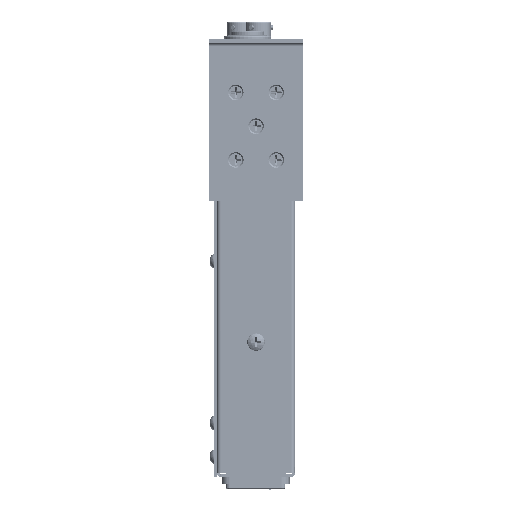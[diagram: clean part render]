
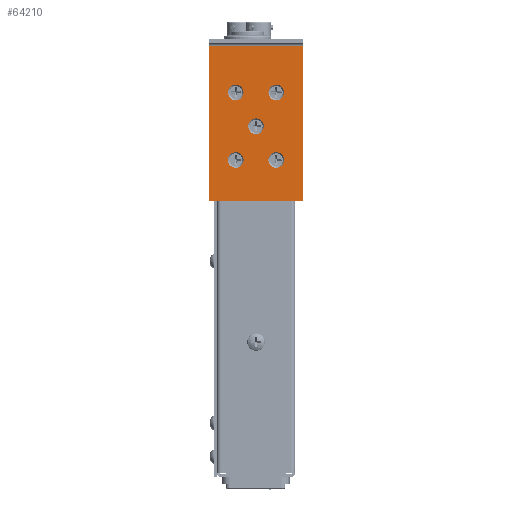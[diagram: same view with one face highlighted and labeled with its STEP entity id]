
A CAD part, left-side view. The second image highlights one B-rep face of the part: STEP entity #64210.
In plain terms, the highlighted planar face has unit normal (-1, 0, 0) as drawn and (0, 0, 1) by its records, which use the part's own axes.
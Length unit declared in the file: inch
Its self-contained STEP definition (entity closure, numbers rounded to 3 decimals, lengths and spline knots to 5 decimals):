
#2550 = CARTESIAN_POINT ( 'NONE',  ( -0.6515, 0.375, 0.059 ) ) ;
#4441 = CARTESIAN_POINT ( 'NONE',  ( -0.507, 0.375, 0.059 ) ) ;
#4532 = AXIS2_PLACEMENT_3D ( 'NONE', #133093, #146354, #32831 ) ;
#6787 = DIRECTION ( 'NONE',  ( 0., 0., 1. ) ) ;
#7026 = FACE_BOUND ( 'NONE', #95758, .T. ) ;
#7069 = VECTOR ( 'NONE', #89198, 39.37008 ) ;
#7187 = CARTESIAN_POINT ( 'NONE',  ( 0.5985, -0.375, 0.059 ) ) ;
#7247 = EDGE_LOOP ( 'NONE', ( #37175, #157412 ) ) ;
#8480 = CARTESIAN_POINT ( 'NONE',  ( -0.507, 0.375, 0.059 ) ) ;
#11831 = DIRECTION ( 'NONE',  ( 0., 0., 1. ) ) ;
#12983 = CARTESIAN_POINT ( 'NONE',  ( -1.5, 0.875, 0.059 ) ) ;
#13545 = VERTEX_POINT ( 'NONE', #53156 ) ;
#15139 = ORIENTED_EDGE ( 'NONE', *, *, #130852, .F. ) ;
#18073 = VERTEX_POINT ( 'NONE', #73938 ) ;
#21677 = DIRECTION ( 'NONE',  ( 1., 0., 0. ) ) ;
#21747 = DIRECTION ( 'NONE',  ( 0., 0., 1. ) ) ;
#25715 = VECTOR ( 'NONE', #73970, 39.37008 ) ;
#27443 = VERTEX_POINT ( 'NONE', #2550 ) ;
#28784 = VERTEX_POINT ( 'NONE', #117300 ) ;
#29468 = FACE_BOUND ( 'NONE', #92837, .T. ) ;
#29490 = EDGE_CURVE ( 'NONE', #73437, #97240, #138697, .T. ) ;
#31721 = DIRECTION ( 'NONE',  ( 1., 0., 0. ) ) ;
#32006 = DIRECTION ( 'NONE',  ( 0., 0., 1. ) ) ;
#32454 = EDGE_LOOP ( 'NONE', ( #95813, #15139 ) ) ;
#32484 = DIRECTION ( 'NONE',  ( 1., 0., 0. ) ) ;
#32831 = DIRECTION ( 'NONE',  ( 1., 0., 0. ) ) ;
#34698 = EDGE_CURVE ( 'NONE', #117661, #28784, #147425, .T. ) ;
#34916 = ORIENTED_EDGE ( 'NONE', *, *, #96566, .F. ) ;
#36516 = EDGE_CURVE ( 'NONE', #27443, #136022, #153207, .T. ) ;
#37175 = ORIENTED_EDGE ( 'NONE', *, *, #68536, .F. ) ;
#39102 = EDGE_CURVE ( 'NONE', #125800, #105210, #161020, .T. ) ;
#39898 = AXIS2_PLACEMENT_3D ( 'NONE', #107880, #6787, #32484 ) ;
#40015 = CIRCLE ( 'NONE', #39898, 0.1445 ) ;
#42599 = CIRCLE ( 'NONE', #135191, 0.1445 ) ;
#43481 = DIRECTION ( 'NONE',  ( 1., 0., 0. ) ) ;
#44001 = ORIENTED_EDGE ( 'NONE', *, *, #112175, .F. ) ;
#44272 = LINE ( 'NONE', #95613, #92543 ) ;
#45061 = DIRECTION ( 'NONE',  ( 0., 1., 0. ) ) ;
#46512 = AXIS2_PLACEMENT_3D ( 'NONE', #74822, #11831, #62378 ) ;
#49944 = ORIENTED_EDGE ( 'NONE', *, *, #39102, .F. ) ;
#50660 = CARTESIAN_POINT ( 'NONE',  ( -0.0265, 0., 0.059 ) ) ;
#52140 = AXIS2_PLACEMENT_3D ( 'NONE', #160866, #149259, #21677 ) ;
#52799 = ORIENTED_EDGE ( 'NONE', *, *, #115144, .F. ) ;
#52851 = VERTEX_POINT ( 'NONE', #134803 ) ;
#53156 = CARTESIAN_POINT ( 'NONE',  ( 1.5, 0.875, 0.059 ) ) ;
#54993 = DIRECTION ( 'NONE',  ( 0., 0., 1. ) ) ;
#55215 = EDGE_CURVE ( 'NONE', #160360, #13545, #148560, .T. ) ;
#55905 = CARTESIAN_POINT ( 'NONE',  ( 0.743, -0.375, 0.059 ) ) ;
#55974 = FACE_BOUND ( 'NONE', #32454, .T. ) ;
#56789 = FACE_BOUND ( 'NONE', #145962, .T. ) ;
#57594 = PLANE ( 'NONE',  #141236 ) ;
#58001 = EDGE_CURVE ( 'NONE', #125800, #160360, #44272, .T. ) ;
#59012 = EDGE_LOOP ( 'NONE', ( #49944, #80245, #108211, #62016 ) ) ;
#59253 = ORIENTED_EDGE ( 'NONE', *, *, #34698, .F. ) ;
#61547 = AXIS2_PLACEMENT_3D ( 'NONE', #8480, #21747, #31721 ) ;
#61657 = CIRCLE ( 'NONE', #61547, 0.1445 ) ;
#62016 = ORIENTED_EDGE ( 'NONE', *, *, #142458, .T. ) ;
#62352 = CARTESIAN_POINT ( 'NONE',  ( 1.5, -0.875, 0.059 ) ) ;
#62378 = DIRECTION ( 'NONE',  ( 1., 0., 0. ) ) ;
#62475 = CIRCLE ( 'NONE', #46512, 0.1445 ) ;
#63471 = VERTEX_POINT ( 'NONE', #127871 ) ;
#64210 = ADVANCED_FACE ( 'NONE', ( #7026, #29468, #56789, #55974, #81636, #117309 ), #57594, .F. ) ;
#68330 = DIRECTION ( 'NONE',  ( 1., 0., 0. ) ) ;
#68536 = EDGE_CURVE ( 'NONE', #52851, #18073, #40015, .T. ) ;
#73437 = VERTEX_POINT ( 'NONE', #106313 ) ;
#73938 = CARTESIAN_POINT ( 'NONE',  ( -0.6515, -0.375, 0.059 ) ) ;
#73970 = DIRECTION ( 'NONE',  ( 0., 1., 0. ) ) ;
#74662 = CARTESIAN_POINT ( 'NONE',  ( -1.366, -0.875, 0.059 ) ) ;
#74822 = CARTESIAN_POINT ( 'NONE',  ( 0.118, 0., 0.059 ) ) ;
#78632 = CIRCLE ( 'NONE', #52140, 0.1445 ) ;
#80245 = ORIENTED_EDGE ( 'NONE', *, *, #58001, .T. ) ;
#81636 = FACE_BOUND ( 'NONE', #7247, .T. ) ;
#82056 = CARTESIAN_POINT ( 'NONE',  ( -1.366, 0.875, 0.059 ) ) ;
#83994 = CARTESIAN_POINT ( 'NONE',  ( -1.366, -0.875, 0.059 ) ) ;
#84710 = DIRECTION ( 'NONE',  ( 1., 0., 0. ) ) ;
#84996 = DIRECTION ( 'NONE',  ( 1., 0., 0. ) ) ;
#85972 = CARTESIAN_POINT ( 'NONE',  ( 0.8875, 0.375, 0.059 ) ) ;
#89198 = DIRECTION ( 'NONE',  ( -1., 0., 0. ) ) ;
#92543 = VECTOR ( 'NONE', #68330, 39.37008 ) ;
#92837 = EDGE_LOOP ( 'NONE', ( #44001, #103639 ) ) ;
#93097 = AXIS2_PLACEMENT_3D ( 'NONE', #144721, #32006, #84996 ) ;
#94435 = ORIENTED_EDGE ( 'NONE', *, *, #151650, .F. ) ;
#94878 = DIRECTION ( 'NONE',  ( 0., 0., -1. ) ) ;
#95613 = CARTESIAN_POINT ( 'NONE',  ( -1.5, -0.875, 0.059 ) ) ;
#95758 = EDGE_LOOP ( 'NONE', ( #52799, #59253 ) ) ;
#95813 = ORIENTED_EDGE ( 'NONE', *, *, #29490, .F. ) ;
#96566 = EDGE_CURVE ( 'NONE', #122567, #63471, #78632, .T. ) ;
#97240 = VERTEX_POINT ( 'NONE', #7187 ) ;
#103639 = ORIENTED_EDGE ( 'NONE', *, *, #36516, .F. ) ;
#105210 = VERTEX_POINT ( 'NONE', #82056 ) ;
#105767 = CARTESIAN_POINT ( 'NONE',  ( 0.743, 0.375, 0.059 ) ) ;
#106313 = CARTESIAN_POINT ( 'NONE',  ( 0.8875, -0.375, 0.059 ) ) ;
#107309 = DIRECTION ( 'NONE',  ( -1., 0., 0. ) ) ;
#107880 = CARTESIAN_POINT ( 'NONE',  ( -0.507, -0.375, 0.059 ) ) ;
#108191 = DIRECTION ( 'NONE',  ( 0., 0., 1. ) ) ;
#108211 = ORIENTED_EDGE ( 'NONE', *, *, #55215, .T. ) ;
#112175 = EDGE_CURVE ( 'NONE', #136022, #27443, #61657, .T. ) ;
#115144 = EDGE_CURVE ( 'NONE', #28784, #117661, #62475, .T. ) ;
#115681 = LINE ( 'NONE', #12983, #7069 ) ;
#116274 = VECTOR ( 'NONE', #45061, 39.37008 ) ;
#117300 = CARTESIAN_POINT ( 'NONE',  ( 0.2625, 0., 0.059 ) ) ;
#117309 = FACE_OUTER_BOUND ( 'NONE', #59012, .T. ) ;
#117661 = VERTEX_POINT ( 'NONE', #50660 ) ;
#119733 = CARTESIAN_POINT ( 'NONE',  ( 0., 0., 0.059 ) ) ;
#120110 = AXIS2_PLACEMENT_3D ( 'NONE', #124417, #150144, #84710 ) ;
#122567 = VERTEX_POINT ( 'NONE', #85972 ) ;
#124417 = CARTESIAN_POINT ( 'NONE',  ( 0.743, -0.375, 0.059 ) ) ;
#125800 = VERTEX_POINT ( 'NONE', #74662 ) ;
#127258 = CIRCLE ( 'NONE', #148464, 0.1445 ) ;
#127871 = CARTESIAN_POINT ( 'NONE',  ( 0.5985, 0.375, 0.059 ) ) ;
#130081 = CIRCLE ( 'NONE', #93097, 0.1445 ) ;
#130624 = DIRECTION ( 'NONE',  ( 1., 0., 0. ) ) ;
#130852 = EDGE_CURVE ( 'NONE', #97240, #73437, #127258, .T. ) ;
#132819 = DIRECTION ( 'NONE',  ( 1., 0., 0. ) ) ;
#133093 = CARTESIAN_POINT ( 'NONE',  ( 0.118, 0., 0.059 ) ) ;
#133323 = CARTESIAN_POINT ( 'NONE',  ( -0.3625, 0.375, 0.059 ) ) ;
#134803 = CARTESIAN_POINT ( 'NONE',  ( -0.3625, -0.375, 0.059 ) ) ;
#135191 = AXIS2_PLACEMENT_3D ( 'NONE', #105767, #108191, #130624 ) ;
#136022 = VERTEX_POINT ( 'NONE', #133323 ) ;
#138697 = CIRCLE ( 'NONE', #120110, 0.1445 ) ;
#141236 = AXIS2_PLACEMENT_3D ( 'NONE', #119733, #94878, #107309 ) ;
#142458 = EDGE_CURVE ( 'NONE', #13545, #105210, #115681, .T. ) ;
#144721 = CARTESIAN_POINT ( 'NONE',  ( -0.507, -0.375, 0.059 ) ) ;
#145962 = EDGE_LOOP ( 'NONE', ( #34916, #94435 ) ) ;
#146354 = DIRECTION ( 'NONE',  ( 0., 0., 1. ) ) ;
#147425 = CIRCLE ( 'NONE', #4532, 0.1445 ) ;
#148464 = AXIS2_PLACEMENT_3D ( 'NONE', #55905, #157003, #43481 ) ;
#148560 = LINE ( 'NONE', #62352, #25715 ) ;
#149259 = DIRECTION ( 'NONE',  ( 0., 0., 1. ) ) ;
#150144 = DIRECTION ( 'NONE',  ( 0., 0., 1. ) ) ;
#151650 = EDGE_CURVE ( 'NONE', #63471, #122567, #42599, .T. ) ;
#153207 = CIRCLE ( 'NONE', #158515, 0.1445 ) ;
#154160 = EDGE_CURVE ( 'NONE', #18073, #52851, #130081, .T. ) ;
#156656 = CARTESIAN_POINT ( 'NONE',  ( 1.5, -0.875, 0.059 ) ) ;
#157003 = DIRECTION ( 'NONE',  ( 0., 0., 1. ) ) ;
#157412 = ORIENTED_EDGE ( 'NONE', *, *, #154160, .F. ) ;
#158515 = AXIS2_PLACEMENT_3D ( 'NONE', #4441, #54993, #132819 ) ;
#160360 = VERTEX_POINT ( 'NONE', #156656 ) ;
#160866 = CARTESIAN_POINT ( 'NONE',  ( 0.743, 0.375, 0.059 ) ) ;
#161020 = LINE ( 'NONE', #83994, #116274 ) ;
